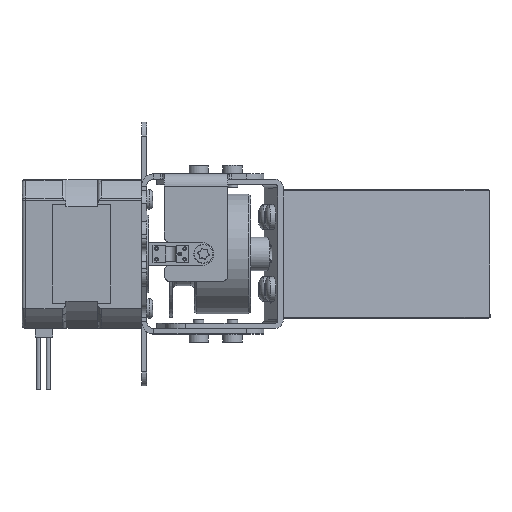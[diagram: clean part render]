
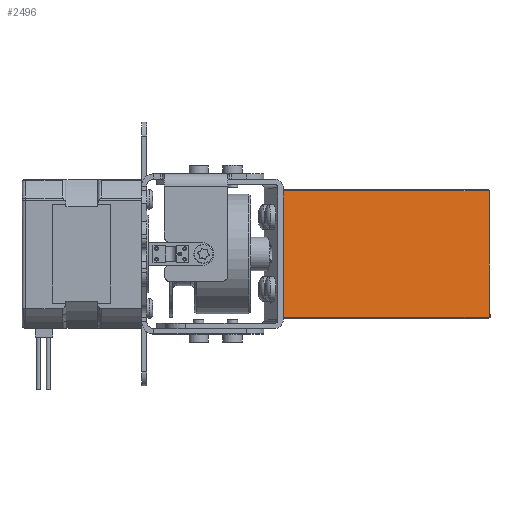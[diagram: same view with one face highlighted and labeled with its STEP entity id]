
A CAD part, top view. The second image highlights one B-rep face of the part: STEP entity #2496.
In plain terms, the highlighted planar face has unit normal (0.141, 0, 0.99) as drawn and (0, 0, 1) by its records, which use the part's own axes.
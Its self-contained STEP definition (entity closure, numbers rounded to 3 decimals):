
#112 = DIRECTION ( 'NONE',  ( 0., 0., -1. ) ) ;
#188 = DIRECTION ( 'NONE',  ( 0., 1., 0. ) ) ;
#1136 = ORIENTED_EDGE ( 'NONE', *, *, #5549, .T. ) ;
#1527 = EDGE_LOOP ( 'NONE', ( #5346, #10074, #14592, #1136 ) ) ;
#2496 = ADVANCED_FACE ( 'NONE', ( #16908 ), #2636, .F. ) ;
#2636 = PLANE ( 'NONE',  #18849 ) ;
#2746 = LINE ( 'NONE', #6556, #9204 ) ;
#3600 = VERTEX_POINT ( 'NONE', #13823 ) ;
#3842 = VECTOR ( 'NONE', #17369, 1000. ) ;
#4273 = CARTESIAN_POINT ( 'NONE',  ( 17.95, -29.2, 10. ) ) ;
#4763 = CARTESIAN_POINT ( 'NONE',  ( 17.95, 30.2, 10. ) ) ;
#5346 = ORIENTED_EDGE ( 'NONE', *, *, #5700, .T. ) ;
#5353 = LINE ( 'NONE', #19742, #11878 ) ;
#5549 = EDGE_CURVE ( 'NONE', #10230, #15023, #19732, .T. ) ;
#5700 = EDGE_CURVE ( 'NONE', #15023, #3600, #9481, .T. ) ;
#6430 = CARTESIAN_POINT ( 'NONE',  ( -17.95, -29.5, 10. ) ) ;
#6556 = CARTESIAN_POINT ( 'NONE',  ( 18.25, -29.2, 10. ) ) ;
#9204 = VECTOR ( 'NONE', #18242, 1000. ) ;
#9481 = LINE ( 'NONE', #6430, #12746 ) ;
#10074 = ORIENTED_EDGE ( 'NONE', *, *, #10875, .T. ) ;
#10230 = VERTEX_POINT ( 'NONE', #4763 ) ;
#10875 = EDGE_CURVE ( 'NONE', #3600, #18078, #2746, .T. ) ;
#11878 = VECTOR ( 'NONE', #19769, 1000. ) ;
#12746 = VECTOR ( 'NONE', #18979, 1000. ) ;
#13823 = CARTESIAN_POINT ( 'NONE',  ( -17.95, -29.2, 10. ) ) ;
#14592 = ORIENTED_EDGE ( 'NONE', *, *, #20421, .T. ) ;
#15023 = VERTEX_POINT ( 'NONE', #19098 ) ;
#16908 = FACE_OUTER_BOUND ( 'NONE', #1527, .T. ) ;
#17369 = DIRECTION ( 'NONE',  ( -1., 0., 0. ) ) ;
#18078 = VERTEX_POINT ( 'NONE', #4273 ) ;
#18084 = CARTESIAN_POINT ( 'NONE',  ( -18.25, 41.5, 10. ) ) ;
#18242 = DIRECTION ( 'NONE',  ( 1., 0., 0. ) ) ;
#18849 = AXIS2_PLACEMENT_3D ( 'NONE', #18084, #112, #188 ) ;
#18979 = DIRECTION ( 'NONE',  ( 0., -1., 0. ) ) ;
#19098 = CARTESIAN_POINT ( 'NONE',  ( -17.95, 30.2, 10. ) ) ;
#19732 = LINE ( 'NONE', #20470, #3842 ) ;
#19742 = CARTESIAN_POINT ( 'NONE',  ( 17.95, 30.5, 10. ) ) ;
#19769 = DIRECTION ( 'NONE',  ( 0., 1., 0. ) ) ;
#20421 = EDGE_CURVE ( 'NONE', #18078, #10230, #5353, .T. ) ;
#20470 = CARTESIAN_POINT ( 'NONE',  ( -18.25, 30.2, 10. ) ) ;
